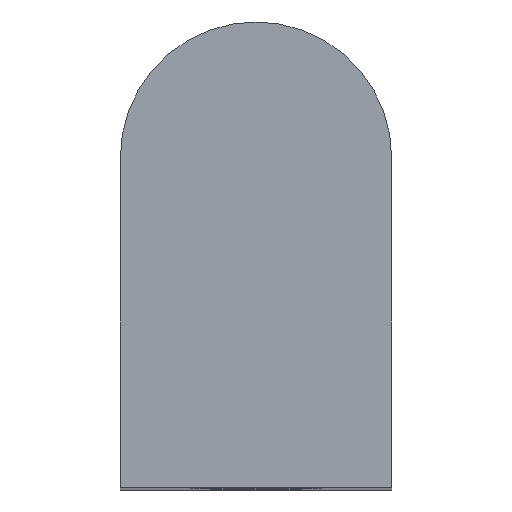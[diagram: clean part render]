
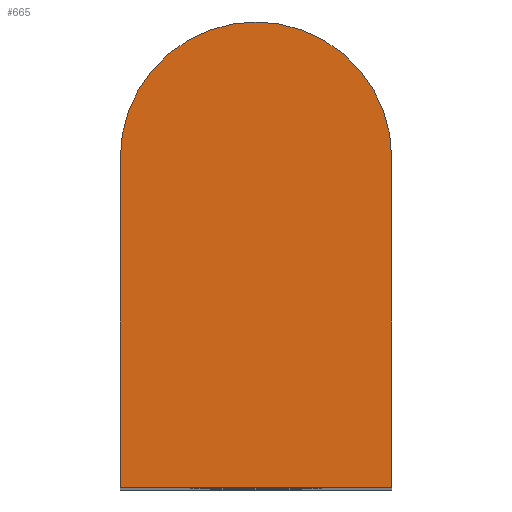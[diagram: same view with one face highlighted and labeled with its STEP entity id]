
A CAD part, top view. The second image highlights one B-rep face of the part: STEP entity #665.
In plain terms, the highlighted planar face has unit normal (0, 0, 1).
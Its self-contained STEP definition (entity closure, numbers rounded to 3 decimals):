
#35 = CARTESIAN_POINT ( 'NONE',  ( 0., 0., 40. ) ) ;
#42 = CARTESIAN_POINT ( 'NONE',  ( -7., 0., 40. ) ) ;
#58 = DIRECTION ( 'NONE',  ( 0., 0., 1. ) ) ;
#61 = DIRECTION ( 'NONE',  ( -1., 0., 0. ) ) ;
#74 = VECTOR ( 'NONE', #614, 1000. ) ;
#85 = VECTOR ( 'NONE', #749, 1000. ) ;
#156 = ORIENTED_EDGE ( 'NONE', *, *, #718, .T. ) ;
#241 = FACE_OUTER_BOUND ( 'NONE', #723, .T. ) ;
#330 = CARTESIAN_POINT ( 'NONE',  ( 0., 0., 40. ) ) ;
#331 = VERTEX_POINT ( 'NONE', #417 ) ;
#338 = EDGE_CURVE ( 'NONE', #449, #769, #834, .T. ) ;
#345 = PLANE ( 'NONE',  #514 ) ;
#357 = DIRECTION ( 'NONE',  ( 0., 0., -1. ) ) ;
#362 = DIRECTION ( 'NONE',  ( -1., 0., 0. ) ) ;
#416 = ORIENTED_EDGE ( 'NONE', *, *, #338, .T. ) ;
#417 = CARTESIAN_POINT ( 'NONE',  ( 7., 0., 40. ) ) ;
#425 = EDGE_CURVE ( 'NONE', #331, #449, #868, .T. ) ;
#449 = VERTEX_POINT ( 'NONE', #42 ) ;
#460 = CARTESIAN_POINT ( 'NONE',  ( -7., 0., 40. ) ) ;
#464 = VERTEX_POINT ( 'NONE', #789 ) ;
#513 = DIRECTION ( 'NONE',  ( 0., -1., 0. ) ) ;
#514 = AXIS2_PLACEMENT_3D ( 'NONE', #330, #357, #362 ) ;
#537 = ORIENTED_EDGE ( 'NONE', *, *, #844, .T. ) ;
#551 = CARTESIAN_POINT ( 'NONE',  ( 7., -17., 40. ) ) ;
#566 = LINE ( 'NONE', #735, #85 ) ;
#614 = DIRECTION ( 'NONE',  ( 0., 1., 0. ) ) ;
#626 = LINE ( 'NONE', #551, #74 ) ;
#628 = CARTESIAN_POINT ( 'NONE',  ( -7., -17., 40. ) ) ;
#665 = ADVANCED_FACE ( 'NONE', ( #241 ), #345, .F. ) ;
#675 = AXIS2_PLACEMENT_3D ( 'NONE', #35, #58, #61 ) ;
#707 = VECTOR ( 'NONE', #513, 1000. ) ;
#718 = EDGE_CURVE ( 'NONE', #464, #331, #626, .T. ) ;
#723 = EDGE_LOOP ( 'NONE', ( #781, #416, #537, #156 ) ) ;
#735 = CARTESIAN_POINT ( 'NONE',  ( -7., -17., 40. ) ) ;
#749 = DIRECTION ( 'NONE',  ( 1., 0., 0. ) ) ;
#769 = VERTEX_POINT ( 'NONE', #628 ) ;
#781 = ORIENTED_EDGE ( 'NONE', *, *, #425, .T. ) ;
#789 = CARTESIAN_POINT ( 'NONE',  ( 7., -17., 40. ) ) ;
#834 = LINE ( 'NONE', #460, #707 ) ;
#844 = EDGE_CURVE ( 'NONE', #769, #464, #566, .T. ) ;
#868 = CIRCLE ( 'NONE', #675, 7. ) ;
